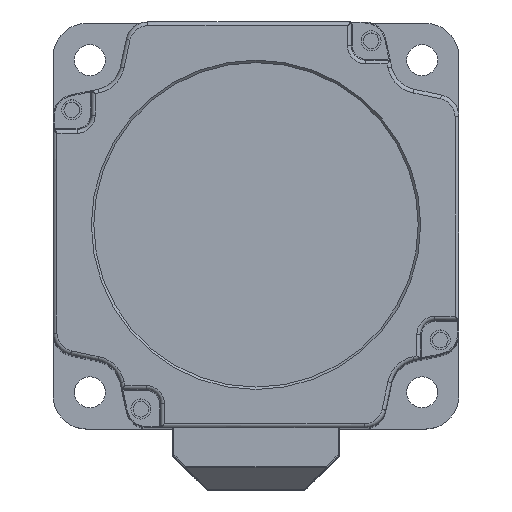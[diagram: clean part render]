
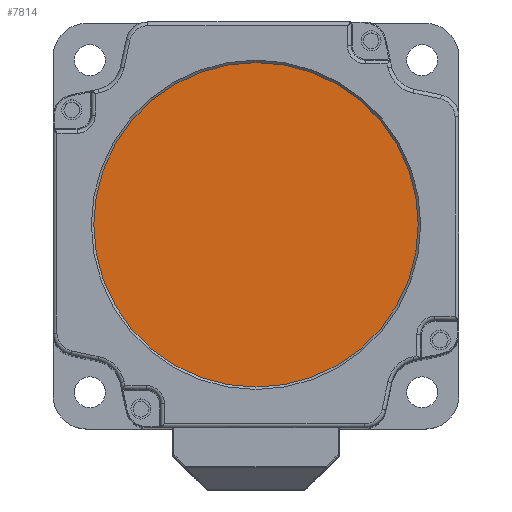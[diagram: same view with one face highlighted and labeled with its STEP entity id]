
A CAD part, top view. The second image highlights one B-rep face of the part: STEP entity #7814.
In plain terms, the highlighted planar face has unit normal (0, 0, 1) as drawn and (0, 0, -1) by its records, which use the part's own axes.
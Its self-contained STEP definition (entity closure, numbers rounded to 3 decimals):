
#2240 = EDGE_LOOP ( 'NONE', ( #6899 ) ) ;
#3310 = CIRCLE ( 'NONE', #11434, 34. ) ;
#3785 = AXIS2_PLACEMENT_3D ( 'NONE', #3990, #5064, #14440 ) ;
#3990 = CARTESIAN_POINT ( 'NONE',  ( 0., 0., 0.5 ) ) ;
#5064 = DIRECTION ( 'NONE',  ( 0., 0., -1. ) ) ;
#5417 = PLANE ( 'NONE',  #3785 ) ;
#6205 = DIRECTION ( 'NONE',  ( -1., 0., 0. ) ) ;
#6899 = ORIENTED_EDGE ( 'NONE', *, *, #14228, .T. ) ;
#7814 = ADVANCED_FACE ( 'NONE', ( #12803 ), #5417, .T. ) ;
#8703 = VERTEX_POINT ( 'NONE', #14104 ) ;
#11434 = AXIS2_PLACEMENT_3D ( 'NONE', #13577, #15168, #6205 ) ;
#12803 = FACE_OUTER_BOUND ( 'NONE', #2240, .T. ) ;
#13577 = CARTESIAN_POINT ( 'NONE',  ( 0., 0., 0.5 ) ) ;
#14104 = CARTESIAN_POINT ( 'NONE',  ( -34., 0., 0.5 ) ) ;
#14228 = EDGE_CURVE ( 'NONE', #8703, #8703, #3310, .T. ) ;
#14440 = DIRECTION ( 'NONE',  ( -1., 0., 0. ) ) ;
#15168 = DIRECTION ( 'NONE',  ( 0., 0., -1. ) ) ;
